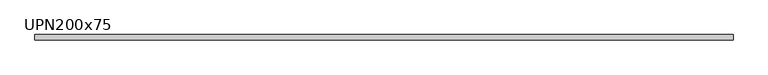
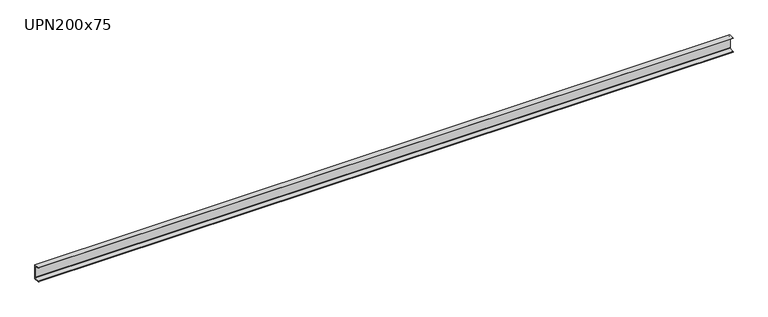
"""IFC4 building model written with IfcOpenShell, lengths in millimetres: beam geometry, M_MC Shapes : UPN200x75."""

from ifc_helpers import new_model, si_unit, point, frame, frame_2d, origin, place, context, project, spatial, polyline, circle_curve, trimmed, segment, composite_curve, outline, extrude, source, transform, mapped, element, save


def upn200x75_a5d547cd(model_context):
    return source(origin(), model_context, "Body", "SweptSolid", [
        extrude(outline(composite_curve([segment(polyline([(10.9, 100.0), (10.9, -100.0), (-64.1, -100.0), (-64.1, -99.0253247)]), True, "CONTINUOUS"), segment(trimmed(circle_curve(frame_2d((-60.15, -99.0253247)), 3.95), [point((-64.1, -99.0253247))], [point((-60.7993773, -95.1290689))], False, "CARTESIAN"), True, "CONTINUOUS"), segment(polyline([(-60.7993773, -95.1290689), (-0.2512455, -85.0376935)]), True, "CONTINUOUS"), segment(trimmed(circle_curve(frame_2d((-1.55, -77.2451819)), 7.9), [point((-0.2512455, -85.0376935))], [point((6.35, -77.2451819))], True, "CARTESIAN"), True, "CONTINUOUS"), segment(polyline([(6.35, -77.2451819), (6.35, 77.2451819)]), True, "CONTINUOUS"), segment(trimmed(circle_curve(frame_2d((-1.55, 77.2451819)), 7.9), [point((6.35, 77.2451819))], [point((-0.2512455, 85.0376935))], True, "CARTESIAN"), True, "CONTINUOUS"), segment(polyline([(-0.2512455, 85.0376935), (-60.7993773, 95.1290689)]), True, "CONTINUOUS"), segment(trimmed(circle_curve(frame_2d((-60.15, 99.0253247)), 3.95), [point((-60.7993773, 95.1290689))], [point((-64.1, 99.0253247))], False, "CARTESIAN"), True, "CONTINUOUS"), segment(polyline([(-64.1, 99.0253247), (-64.1, 100.0), (10.9, 100.0)]), True, "CONTINUOUS")], self_intersect=False)), frame((-4624.75, 0.0, 0.0), z_axis=(1.0, 0.0, 0.0), x_axis=(0.0, 1.0, 0.0)), (0.0, 0.0, 1.0), 9387.2),
    ])


if __name__ == "__main__":
    model = new_model("IFC4")
    model_context = context("Model", 3, world=origin())
    ifc_project = project(units=[si_unit("LENGTHUNIT", "METRE", prefix="MILLI")], contexts=[model_context])
    site = spatial("IfcSite", under=ifc_project)
    building = spatial("IfcBuilding", under=site)
    placement = place(None, origin())
    upn200x75_shape = upn200x75_a5d547cd(model_context)
    element("IfcBeam", 1, ObjectType="M_MC Shapes : UPN200x75", at=placement, inside=building, context=model_context, shape_type="MappedRepresentation", body=[
        mapped(upn200x75_shape, transform((0.0, 0.0, 0.0), x_axis=(1.0, 0.0, 0.0), y_axis=(0.0, 1.0, 0.0), z_axis=(0.0, 0.0, 1.0))),
    ])
    save(model, "model.ifc")
